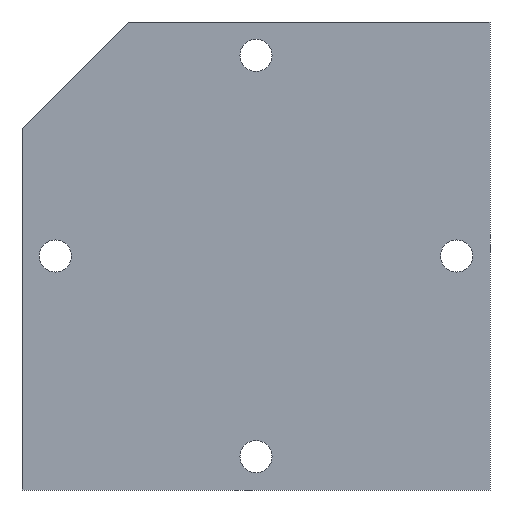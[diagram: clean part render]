
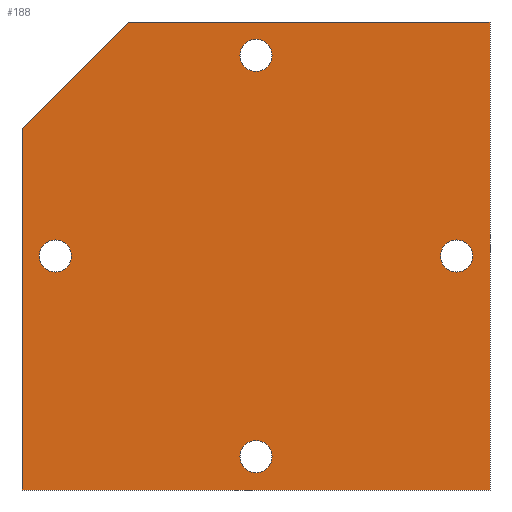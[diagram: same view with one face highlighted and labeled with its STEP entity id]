
A CAD part, front view. The second image highlights one B-rep face of the part: STEP entity #188.
In plain terms, the highlighted planar face has unit normal (0, -1, 0).
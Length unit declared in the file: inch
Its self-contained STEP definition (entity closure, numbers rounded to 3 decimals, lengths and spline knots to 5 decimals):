
#33=CARTESIAN_POINT('',(-0.875,-1.12224,0.475));
#34=VERTEX_POINT('',#33);
#43=CARTESIAN_POINT('',(-0.475,-1.12224,0.875));
#44=VERTEX_POINT('',#43);
#45=CARTESIAN_POINT('',(-0.30343,-1.12224,1.04657));
#46=DIRECTION('',(0.707,0.0,0.707));
#47=VECTOR('',#46,1.0);
#48=LINE('',#45,#47);
#49=EDGE_CURVE('',#34,#44,#48,.T.);
#82=CARTESIAN_POINT('',(0.875,-1.12224,0.875));
#83=VERTEX_POINT('',#82);
#84=CARTESIAN_POINT('',(0.,-1.12224,0.875));
#85=DIRECTION('',(-1.0,0.0,-0.0));
#86=VECTOR('',#85,1.0);
#87=LINE('',#84,#86);
#88=EDGE_CURVE('',#83,#44,#87,.T.);
#113=ORIENTED_EDGE('',*,*,#49,.F.);
#114=CARTESIAN_POINT('',(-0.875,-1.12224,-0.875));
#115=VERTEX_POINT('',#114);
#116=CARTESIAN_POINT('',(-0.875,-1.12224,0.));
#117=DIRECTION('',(0.0,0.0,-1.0));
#118=VECTOR('',#117,1.0);
#119=LINE('',#116,#118);
#120=EDGE_CURVE('',#34,#115,#119,.T.);
#121=ORIENTED_EDGE('',*,*,#120,.T.);
#122=CARTESIAN_POINT('',(0.875,-1.12224,-0.875));
#123=VERTEX_POINT('',#122);
#124=CARTESIAN_POINT('',(0.,-1.12224,-0.875));
#125=DIRECTION('',(1.0,0.0,0.0));
#126=VECTOR('',#125,1.0);
#127=LINE('',#124,#126);
#128=EDGE_CURVE('',#115,#123,#127,.T.);
#129=ORIENTED_EDGE('',*,*,#128,.T.);
#130=CARTESIAN_POINT('',(0.875,-1.12224,0.));
#131=DIRECTION('',(0.0,0.0,-1.0));
#132=VECTOR('',#131,1.0);
#133=LINE('',#130,#132);
#134=EDGE_CURVE('',#83,#123,#133,.T.);
#135=ORIENTED_EDGE('',*,*,#134,.F.);
#136=ORIENTED_EDGE('',*,*,#88,.T.);
#137=EDGE_LOOP('',(#113,#121,#129,#135,#136));
#138=FACE_OUTER_BOUND('',#137,.T.);
#139=CARTESIAN_POINT('',(0.69,-1.12224,0.));
#140=VERTEX_POINT('',#139);
#141=CARTESIAN_POINT('',(0.75,-1.12224,0.));
#142=DIRECTION('',(0.0,-1.0,0.0));
#143=DIRECTION('',(1.0,0.0,0.0));
#144=AXIS2_PLACEMENT_3D('',#141,#142,#143);
#145=CIRCLE('',#144,0.06);
#146=EDGE_CURVE('',#140,#140,#145,.T.);
#147=ORIENTED_EDGE('',*,*,#146,.F.);
#148=EDGE_LOOP('',(#147));
#149=FACE_BOUND('',#148,.T.);
#150=CARTESIAN_POINT('',(-0.06,-1.12224,0.75));
#151=VERTEX_POINT('',#150);
#152=CARTESIAN_POINT('',(0.,-1.12224,0.75));
#153=DIRECTION('',(0.0,-1.0,0.0));
#154=DIRECTION('',(1.0,0.0,0.0));
#155=AXIS2_PLACEMENT_3D('',#152,#153,#154);
#156=CIRCLE('',#155,0.06);
#157=EDGE_CURVE('',#151,#151,#156,.T.);
#158=ORIENTED_EDGE('',*,*,#157,.F.);
#159=EDGE_LOOP('',(#158));
#160=FACE_BOUND('',#159,.T.);
#161=CARTESIAN_POINT('',(-0.69,-1.12224,0.));
#162=VERTEX_POINT('',#161);
#163=CARTESIAN_POINT('',(-0.75,-1.12224,0.));
#164=DIRECTION('',(0.0,-1.0,0.0));
#165=DIRECTION('',(-1.0,0.0,-0.0));
#166=AXIS2_PLACEMENT_3D('',#163,#164,#165);
#167=CIRCLE('',#166,0.06);
#168=EDGE_CURVE('',#162,#162,#167,.T.);
#169=ORIENTED_EDGE('',*,*,#168,.F.);
#170=EDGE_LOOP('',(#169));
#171=FACE_BOUND('',#170,.T.);
#172=CARTESIAN_POINT('',(0.,-1.12224,-0.81));
#173=VERTEX_POINT('',#172);
#174=CARTESIAN_POINT('',(0.,-1.12224,-0.75));
#175=DIRECTION('',(0.0,-1.0,0.0));
#176=DIRECTION('',(-0.0,0.0,1.0));
#177=AXIS2_PLACEMENT_3D('',#174,#175,#176);
#178=CIRCLE('',#177,0.06);
#179=EDGE_CURVE('',#173,#173,#178,.T.);
#180=ORIENTED_EDGE('',*,*,#179,.F.);
#181=EDGE_LOOP('',(#180));
#182=FACE_BOUND('',#181,.T.);
#183=CARTESIAN_POINT('',(0.875,-1.12224,0.32843));
#184=DIRECTION('',(0.0,1.0,0.0));
#185=DIRECTION('',(-0.0,0.0,1.0));
#186=AXIS2_PLACEMENT_3D('',#183,#184,#185);
#187=PLANE('',#186);
#188=ADVANCED_FACE('',(#138,#149,#160,#171,#182),#187,.F.);
